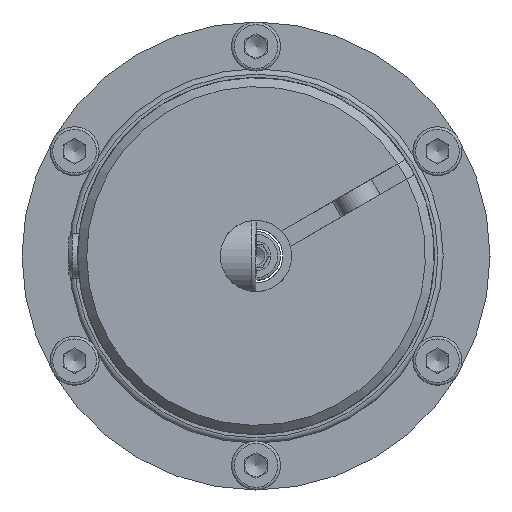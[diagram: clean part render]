
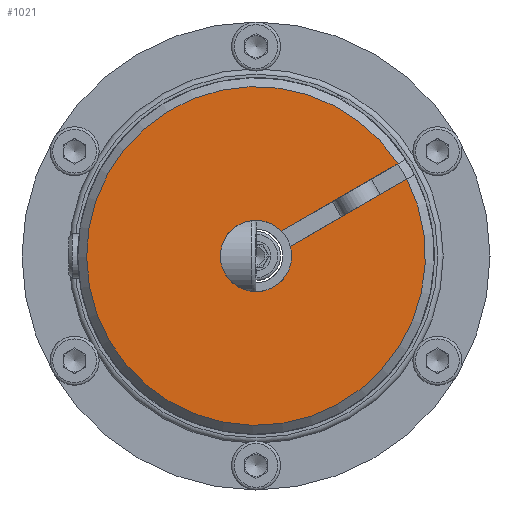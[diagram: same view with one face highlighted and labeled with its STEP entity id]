
A CAD part, left-side view. The second image highlights one B-rep face of the part: STEP entity #1021.
In plain terms, the highlighted planar face has unit normal (-1, 0, 0).
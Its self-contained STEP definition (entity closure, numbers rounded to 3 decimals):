
#1021 = ADVANCED_FACE( '', ( #1857 ), #1858, .F. );
#1857 = FACE_OUTER_BOUND( '', #3120, .T. );
#1858 = PLANE( '', #3121 );
#3120 = EDGE_LOOP( '', ( #5404, #5405, #5406, #5407 ) );
#3121 = AXIS2_PLACEMENT_3D( '', #5408, #5409, #5410 );
#5404 = ORIENTED_EDGE( '', *, *, #8280, .F. );
#5405 = ORIENTED_EDGE( '', *, *, #8279, .F. );
#5406 = ORIENTED_EDGE( '', *, *, #8275, .F. );
#5407 = ORIENTED_EDGE( '', *, *, #8281, .T. );
#5408 = CARTESIAN_POINT( '', ( -25., 0., 19. ) );
#5409 = DIRECTION( '', ( 1., 0., 0. ) );
#5410 = DIRECTION( '', ( 0., 0., -1. ) );
#8275 = EDGE_CURVE( '', #9804, #9800, #9806, .T. );
#8279 = EDGE_CURVE( '', #9800, #9810, #9813, .T. );
#8280 = EDGE_CURVE( '', #9810, #9814, #9815, .T. );
#8281 = EDGE_CURVE( '', #9804, #9814, #9816, .T. );
#9800 = VERTEX_POINT( '', #13452 );
#9804 = VERTEX_POINT( '', #13458 );
#9806 = LINE( '', #13463, #13464 );
#9810 = VERTEX_POINT( '', #13468 );
#9813 = CIRCLE( '', #13472, 4. );
#9814 = VERTEX_POINT( '', #13473 );
#9815 = LINE( '', #13474, #13475 );
#9816 = CIRCLE( '', #13476, 19. );
#13452 = CARTESIAN_POINT( '', ( -25., 3.873, -1. ) );
#13458 = CARTESIAN_POINT( '', ( -25., 18.974, -1. ) );
#13463 = CARTESIAN_POINT( '', ( -25., 0., -1. ) );
#13464 = VECTOR( '', #16000, 1000. );
#13468 = CARTESIAN_POINT( '', ( -25., 3.873, 1. ) );
#13472 = AXIS2_PLACEMENT_3D( '', #16008, #16009, #16010 );
#13473 = CARTESIAN_POINT( '', ( -25., 18.974, 1. ) );
#13474 = CARTESIAN_POINT( '', ( -25., 0., 1. ) );
#13475 = VECTOR( '', #16011, 1000. );
#13476 = AXIS2_PLACEMENT_3D( '', #16012, #16013, #16014 );
#16000 = DIRECTION( '', ( 0., -1., 0. ) );
#16008 = CARTESIAN_POINT( '', ( -25., 0., 0. ) );
#16009 = DIRECTION( '', ( -1., 0., 0. ) );
#16010 = DIRECTION( '', ( 0., 0., 1. ) );
#16011 = DIRECTION( '', ( 0., 1., 0. ) );
#16012 = CARTESIAN_POINT( '', ( -25., 0., 0. ) );
#16013 = DIRECTION( '', ( -1., 0., 0. ) );
#16014 = DIRECTION( '', ( 0., 0., 1. ) );
